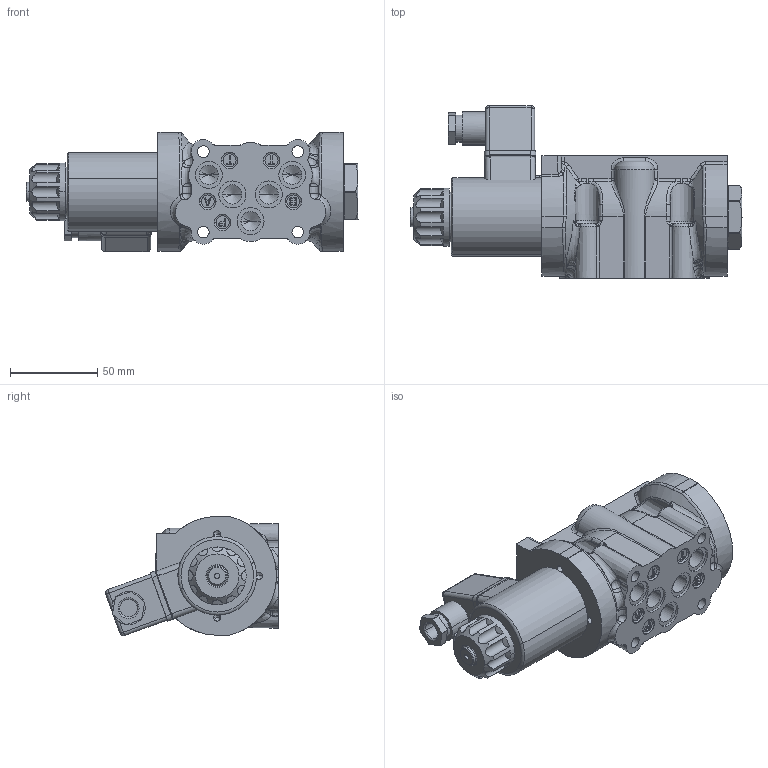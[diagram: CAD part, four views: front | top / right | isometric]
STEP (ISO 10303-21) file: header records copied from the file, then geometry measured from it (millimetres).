
FILE_DESCRIPTION((''),'2;1');
FILE_NAME('RPEL1_102R11_419169_ASM','2019-09-30T',('l.soukupova'),(''),'PRO/ENGINEER BY PARAMETRIC TECHNOLOGY CORPORATION, 2015440','PRO/ENGINEER BY PARAMETRIC TECHNOLOGY CORPORATION, 2015440','');
FILE_SCHEMA(('AUTOMOTIVE_DESIGN { 1 0 10303 214 1 1 1 1 }'));
Products named in the file (4): RPEL1_102R11_RD; C22B_E1; K1_GR; RPEL1_102R11_419169_ASM
Assembly tree (3 placements, depth 2):
  RPEL1_102R11_419169_ASM
    RPEL1_102R11_RD
    C22B_E1
    K1_GR
Bounding box: 190 x 98.9 x 68.42 mm (x, y, z)
Volume: 496297.3 mm3; surface area: 71349.6 mm2
Topology: 3 solids, 4 shells, 768 faces, 1947 edges, 1295 vertices
Faces by surface type: plane 278, cylinder 194, bspline 164, cone 84, torus 31, sphere 17
Entity records: 46299 total; most frequent: CARTESIAN_POINT 21092, ORIENTED_EDGE 3692, DIRECTION 3406, PRESENTATION_STYLE_ASSIGNMENT 2095, STYLED_ITEM 1945, CURVE_STYLE 1941, EDGE_CURVE 1848, AXIS2_PLACEMENT_3D 1246
